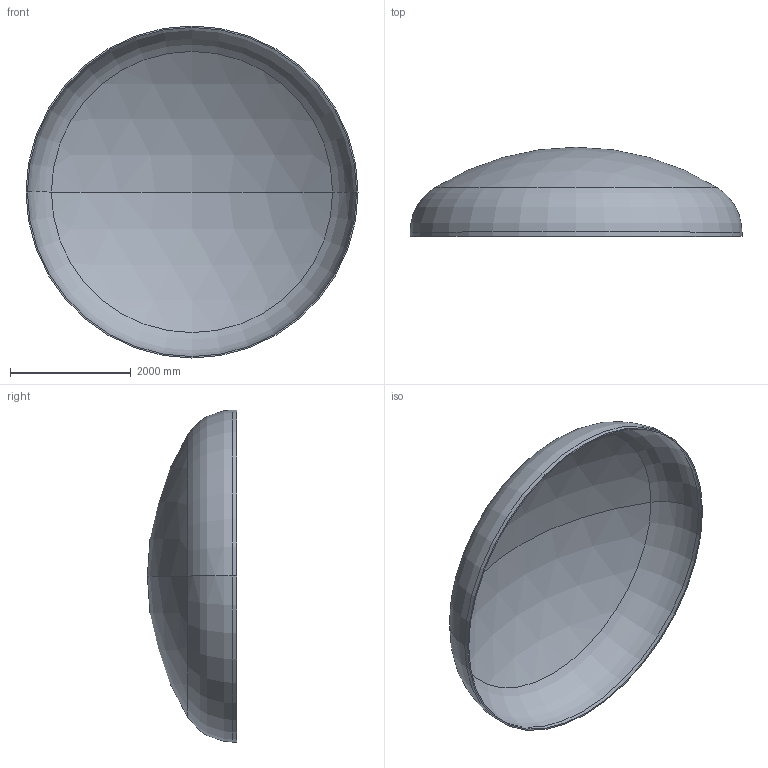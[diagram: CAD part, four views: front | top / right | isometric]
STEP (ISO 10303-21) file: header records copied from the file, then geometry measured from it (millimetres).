
FILE_DESCRIPTION (( 'STEP AP203' ), '1' );
FILE_NAME ('DIN 28013 Korbbogenform_-_Boden DIN 28013 - 5500 x 70 - I - s=23.step', '2016-07-04T10:33:45', ( '' ), ( '' ), 'SwSTEP 2.0', 'SolidWorks 2013', '' );
FILE_SCHEMA (( 'CONFIG_CONTROL_DESIGN' ));
Length unit declared in the file: millimetre
Products named in the file (1): DIN 28013 Korbbogenform_-_Boden DIN 28013 - 5500 x 70 - I - s=23
Bounding box: 5500 x 1477.03 x 5500 mm (x, y, z)
Volume: 780033013.6 mm3; surface area: 68225788 mm2
Topology: 1 solids, 1 shells, 13 faces, 24 edges, 14 vertices
Faces by surface type: torus 4, cylinder 4, sphere 4, plane 1
Entity records: 407 total; most frequent: DIRECTION 72, CARTESIAN_POINT 52, ORIENTED_EDGE 48, AXIS2_PLACEMENT_3D 34, EDGE_CURVE 24, CIRCLE 20, VERTEX_POINT 14, EDGE_LOOP 14
